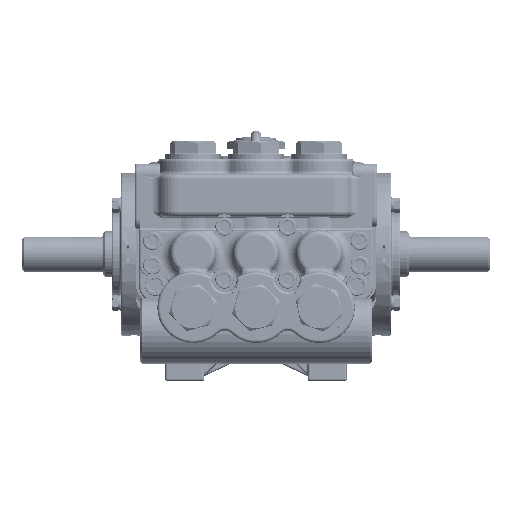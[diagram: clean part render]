
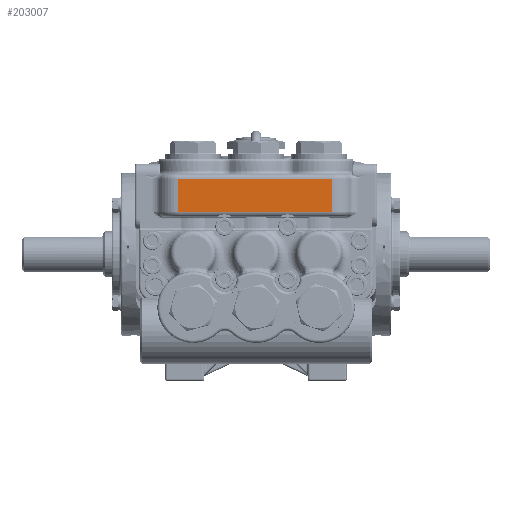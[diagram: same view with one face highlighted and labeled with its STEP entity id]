
A CAD part, top view. The second image highlights one B-rep face of the part: STEP entity #203007.
In plain terms, the highlighted planar face has unit normal (0, 0, 1).
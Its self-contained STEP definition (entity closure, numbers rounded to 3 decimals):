
#20356 = VECTOR ( 'NONE', #83365, 1000. ) ;
#20357 = VECTOR ( 'NONE', #83368, 1000. ) ;
#20358 = VECTOR ( 'NONE', #83371, 1000. ) ;
#20360 = VECTOR ( 'NONE', #83374, 1000. ) ;
#57577 = PLANE ( 'NONE',  #144916 ) ;
#57579 = CARTESIAN_POINT ( 'NONE',  ( 37.87, -22.208, 477. ) ) ;
#57581 = DIRECTION ( 'NONE',  ( 0., 0., 1. ) ) ;
#57583 = DIRECTION ( 'NONE',  ( 0., 1., 0. ) ) ;
#73886 = EDGE_CURVE ( 'NONE', #254854, #255533, #83363, .T. ) ;
#73889 = EDGE_CURVE ( 'NONE', #255551, #254854, #83366, .T. ) ;
#73891 = EDGE_CURVE ( 'NONE', #255533, #254866, #83369, .T. ) ;
#73893 = EDGE_CURVE ( 'NONE', #254866, #255551, #83372, .T. ) ;
#83363 = LINE ( 'NONE', #83364, #20356 ) ;
#83364 = CARTESIAN_POINT ( 'NONE',  ( 23.952, 41., 477. ) ) ;
#83365 = DIRECTION ( 'NONE',  ( 1., 0., 0. ) ) ;
#83366 = LINE ( 'NONE', #83367, #20357 ) ;
#83367 = CARTESIAN_POINT ( 'NONE',  ( -76.635, 36., 477. ) ) ;
#83368 = DIRECTION ( 'NONE',  ( 0., -1., 0. ) ) ;
#83369 = LINE ( 'NONE', #83370, #20358 ) ;
#83370 = CARTESIAN_POINT ( 'NONE',  ( 74.635, 78., 477. ) ) ;
#83371 = DIRECTION ( 'NONE',  ( 0., 1., 0. ) ) ;
#83372 = LINE ( 'NONE', #83373, #20360 ) ;
#83373 = CARTESIAN_POINT ( 'NONE',  ( 37.87, 73., 477. ) ) ;
#83374 = DIRECTION ( 'NONE',  ( -1., 0., 0. ) ) ;
#144910 = FACE_OUTER_BOUND ( 'NONE', #252930, .T. ) ;
#144916 = AXIS2_PLACEMENT_3D ( 'NONE', #57579, #57581, #57583 ) ;
#147615 = CARTESIAN_POINT ( 'NONE',  ( 74.635, 41., 477. ) ) ;
#147624 = CARTESIAN_POINT ( 'NONE',  ( -76.635, 73., 477. ) ) ;
#153882 = ORIENTED_EDGE ( 'NONE', *, *, #73889, .T. ) ;
#153883 = ORIENTED_EDGE ( 'NONE', *, *, #73891, .T. ) ;
#153884 = ORIENTED_EDGE ( 'NONE', *, *, #73886, .T. ) ;
#153885 = ORIENTED_EDGE ( 'NONE', *, *, #73893, .T. ) ;
#203007 = ADVANCED_FACE ( 'NONE', ( #144910 ), #57577, .T. ) ;
#245632 = CARTESIAN_POINT ( 'NONE',  ( -76.635, 41., 477. ) ) ;
#245657 = CARTESIAN_POINT ( 'NONE',  ( 74.635, 73., 477. ) ) ;
#252930 = EDGE_LOOP ( 'NONE', ( #153882, #153884, #153883, #153885 ) ) ;
#254854 = VERTEX_POINT ( 'NONE', #245632 ) ;
#254866 = VERTEX_POINT ( 'NONE', #245657 ) ;
#255533 = VERTEX_POINT ( 'NONE', #147615 ) ;
#255551 = VERTEX_POINT ( 'NONE', #147624 ) ;
